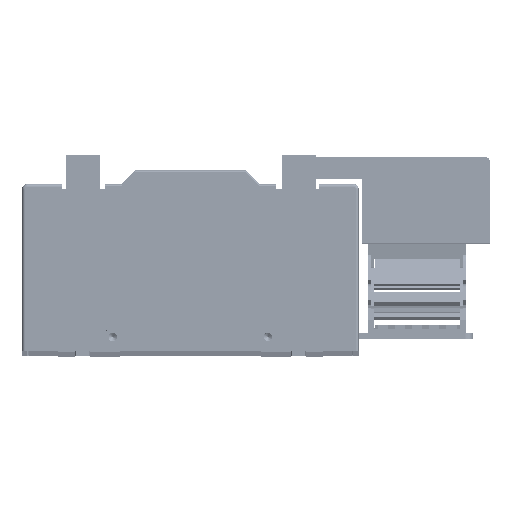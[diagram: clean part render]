
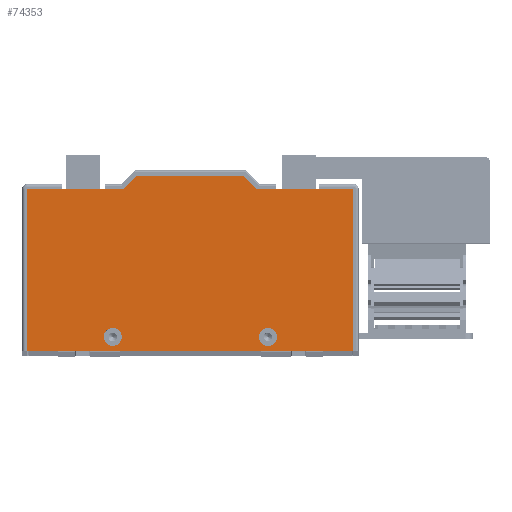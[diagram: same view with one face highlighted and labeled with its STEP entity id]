
A CAD part, top view. The second image highlights one B-rep face of the part: STEP entity #74353.
In plain terms, the highlighted planar face has unit normal (0, 0, 1) as drawn and (0, 0, -1) by its records, which use the part's own axes.
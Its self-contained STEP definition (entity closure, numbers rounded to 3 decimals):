
#4871 = DIRECTION ( 'NONE',  ( 0., 1., 0. ) ) ;
#4872 = VECTOR ( 'NONE', #4871, 1000. ) ;
#4873 = CARTESIAN_POINT ( 'NONE',  ( -175.191, -17.701, 0. ) ) ;
#4875 = LINE ( 'NONE', #4873, #4872 ) ;
#6673 = CARTESIAN_POINT ( 'NONE',  ( -175.191, -9.701, 0. ) ) ;
#8071 = DIRECTION ( 'NONE',  ( -1., 0., 0. ) ) ;
#8073 = VECTOR ( 'NONE', #8071, 1000. ) ;
#8076 = CARTESIAN_POINT ( 'NONE',  ( 14.809, -17.701, 0. ) ) ;
#8077 = LINE ( 'NONE', #8076, #8073 ) ;
#8194 = CARTESIAN_POINT ( 'NONE',  ( -111.191, -17.701, 0. ) ) ;
#8887 = CARTESIAN_POINT ( 'NONE',  ( -40.191, 76.299, 0. ) ) ;
#9046 = CARTESIAN_POINT ( 'NONE',  ( -29.691, 76.299, 0. ) ) ;
#9144 = DIRECTION ( 'NONE',  ( -1., 0., 0. ) ) ;
#9146 = DIRECTION ( 'NONE',  ( 0., 0., -1. ) ) ;
#9148 = AXIS2_PLACEMENT_3D ( 'NONE', #9159, #9146, #9144 ) ;
#9149 = CIRCLE ( 'NONE', #9148, 5.25 ) ;
#9159 = CARTESIAN_POINT ( 'NONE',  ( -34.941, 76.299, 0. ) ) ;
#9423 = VERTEX_POINT ( 'NONE', #108150 ) ;
#11828 = CARTESIAN_POINT ( 'NONE',  ( -130.691, 76.299, 0. ) ) ;
#17347 = DIRECTION ( 'NONE',  ( -1., 0., 0. ) ) ;
#17348 = DIRECTION ( 'NONE',  ( 0., 0., -1. ) ) ;
#17349 = CARTESIAN_POINT ( 'NONE',  ( -125.441, 76.299, 0. ) ) ;
#17350 = AXIS2_PLACEMENT_3D ( 'NONE', #17349, #17348, #17347 ) ;
#17352 = CIRCLE ( 'NONE', #17350, 5.25 ) ;
#34182 = DIRECTION ( 'NONE',  ( 1., 0., 0. ) ) ;
#34183 = VECTOR ( 'NONE', #34182, 1000. ) ;
#34184 = CARTESIAN_POINT ( 'NONE',  ( -175.191, 84.299, 0. ) ) ;
#34185 = LINE ( 'NONE', #34184, #34183 ) ;
#34225 = CARTESIAN_POINT ( 'NONE',  ( -175.191, 84.299, 0. ) ) ;
#34227 = CARTESIAN_POINT ( 'NONE',  ( 14.809, 84.299, 0. ) ) ;
#34911 = CARTESIAN_POINT ( 'NONE',  ( -49.191, -17.701, 0. ) ) ;
#41503 = LINE ( 'NONE', #41574, #41573 ) ;
#41572 = DIRECTION ( 'NONE',  ( 1., 0., 0. ) ) ;
#41573 = VECTOR ( 'NONE', #41572, 1000. ) ;
#41574 = CARTESIAN_POINT ( 'NONE',  ( -119.191, -9.701, 0. ) ) ;
#41718 = CARTESIAN_POINT ( 'NONE',  ( -119.191, -9.701, 0. ) ) ;
#41771 = DIRECTION ( 'NONE',  ( 0.707, 0.707, 0. ) ) ;
#41772 = VECTOR ( 'NONE', #41771, 1000. ) ;
#41773 = CARTESIAN_POINT ( 'NONE',  ( -41.191, -9.701, 0. ) ) ;
#41778 = LINE ( 'NONE', #41773, #41772 ) ;
#41824 = DIRECTION ( 'NONE',  ( 0.707, -0.707, 0. ) ) ;
#41825 = VECTOR ( 'NONE', #41824, 1000. ) ;
#41826 = CARTESIAN_POINT ( 'NONE',  ( -111.191, -17.701, 0. ) ) ;
#41827 = LINE ( 'NONE', #41826, #41825 ) ;
#41889 = CARTESIAN_POINT ( 'NONE',  ( -41.191, -9.701, 0. ) ) ;
#42053 = DIRECTION ( 'NONE',  ( 1., 0., 0. ) ) ;
#42054 = VECTOR ( 'NONE', #42053, 1000. ) ;
#42055 = CARTESIAN_POINT ( 'NONE',  ( 14.809, -9.701, 0. ) ) ;
#42056 = LINE ( 'NONE', #42055, #42054 ) ;
#43990 = DIRECTION ( 'NONE',  ( -1., 0., 0. ) ) ;
#43991 = DIRECTION ( 'NONE',  ( 0., 0., -1. ) ) ;
#43992 = CARTESIAN_POINT ( 'NONE',  ( -34.941, 76.299, 0. ) ) ;
#43993 = AXIS2_PLACEMENT_3D ( 'NONE', #43992, #43991, #43990 ) ;
#43994 = CIRCLE ( 'NONE', #43993, 5.25 ) ;
#45676 = DIRECTION ( 'NONE',  ( 0., 0., -1. ) ) ;
#45677 = CARTESIAN_POINT ( 'NONE',  ( -125.441, 76.299, 0. ) ) ;
#45678 = AXIS2_PLACEMENT_3D ( 'NONE', #45677, #45676, #45741 ) ;
#45679 = CIRCLE ( 'NONE', #45678, 5.25 ) ;
#45741 = DIRECTION ( 'NONE',  ( -1., 0., 0. ) ) ;
#45966 = DIRECTION ( 'NONE',  ( 1., 0., 0. ) ) ;
#45967 = DIRECTION ( 'NONE',  ( 0., 0., 1. ) ) ;
#45968 = CARTESIAN_POINT ( 'NONE',  ( -175.191, 84.299, 0. ) ) ;
#45969 = AXIS2_PLACEMENT_3D ( 'NONE', #45968, #45967, #45966 ) ;
#45972 = PLANE ( 'NONE',  #45969 ) ;
#45973 = FACE_OUTER_BOUND ( 'NONE', #70578, .T. ) ;
#45974 = FACE_BOUND ( 'NONE', #73036, .T. ) ;
#45975 = FACE_BOUND ( 'NONE', #74505, .T. ) ;
#70578 = EDGE_LOOP ( 'NONE', ( #128232, #127660, #125796, #125690, #125522, #125423, #124928, #124988 ) ) ;
#71286 = ORIENTED_EDGE ( 'NONE', *, *, #89266, .F. ) ;
#72454 = EDGE_CURVE ( 'NONE', #88800, #89128, #43994, .T. ) ;
#73036 = EDGE_LOOP ( 'NONE', ( #73390, #71286 ) ) ;
#73390 = ORIENTED_EDGE ( 'NONE', *, *, #72454, .F. ) ;
#73843 = ORIENTED_EDGE ( 'NONE', *, *, #93633, .F. ) ;
#73892 = EDGE_CURVE ( 'NONE', #103095, #9423, #45679, .T. ) ;
#74270 = ORIENTED_EDGE ( 'NONE', *, *, #73892, .F. ) ;
#74353 = ADVANCED_FACE ( 'NONE', ( #45975, #45974, #45973 ), #45972, .F. ) ;
#74505 = EDGE_LOOP ( 'NONE', ( #74270, #73843 ) ) ;
#83686 = EDGE_CURVE ( 'NONE', #104862, #84419, #86965, .T. ) ;
#84419 = VERTEX_POINT ( 'NONE', #88331 ) ;
#86211 = EDGE_CURVE ( 'NONE', #105301, #86763, #8077, .T. ) ;
#86763 = VERTEX_POINT ( 'NONE', #8194 ) ;
#86962 = DIRECTION ( 'NONE',  ( 0., -1., 0. ) ) ;
#86963 = VECTOR ( 'NONE', #86962, 1000. ) ;
#86964 = CARTESIAN_POINT ( 'NONE',  ( 14.809, 84.299, 0. ) ) ;
#86965 = LINE ( 'NONE', #86964, #86963 ) ;
#88331 = CARTESIAN_POINT ( 'NONE',  ( 14.809, -9.701, 0. ) ) ;
#88800 = VERTEX_POINT ( 'NONE', #8887 ) ;
#89128 = VERTEX_POINT ( 'NONE', #9046 ) ;
#89266 = EDGE_CURVE ( 'NONE', #89128, #88800, #9149, .T. ) ;
#93633 = EDGE_CURVE ( 'NONE', #9423, #103095, #17352, .T. ) ;
#99681 = EDGE_CURVE ( 'NONE', #101411, #104865, #4875, .T. ) ;
#101411 = VERTEX_POINT ( 'NONE', #6673 ) ;
#103095 = VERTEX_POINT ( 'NONE', #11828 ) ;
#104853 = EDGE_CURVE ( 'NONE', #104865, #104862, #34185, .T. ) ;
#104862 = VERTEX_POINT ( 'NONE', #34227 ) ;
#104865 = VERTEX_POINT ( 'NONE', #34225 ) ;
#105301 = VERTEX_POINT ( 'NONE', #34911 ) ;
#108150 = CARTESIAN_POINT ( 'NONE',  ( -120.191, 76.299, 0. ) ) ;
#124912 = EDGE_CURVE ( 'NONE', #101411, #125567, #41503, .T. ) ;
#124928 = ORIENTED_EDGE ( 'NONE', *, *, #99681, .T. ) ;
#124988 = ORIENTED_EDGE ( 'NONE', *, *, #104853, .T. ) ;
#125423 = ORIENTED_EDGE ( 'NONE', *, *, #124912, .F. ) ;
#125522 = ORIENTED_EDGE ( 'NONE', *, *, #125833, .F. ) ;
#125567 = VERTEX_POINT ( 'NONE', #41718 ) ;
#125627 = EDGE_CURVE ( 'NONE', #105301, #126214, #41778, .T. ) ;
#125690 = ORIENTED_EDGE ( 'NONE', *, *, #86211, .T. ) ;
#125796 = ORIENTED_EDGE ( 'NONE', *, *, #125627, .F. ) ;
#125833 = EDGE_CURVE ( 'NONE', #125567, #86763, #41827, .T. ) ;
#126214 = VERTEX_POINT ( 'NONE', #41889 ) ;
#126878 = EDGE_CURVE ( 'NONE', #126214, #84419, #42056, .T. ) ;
#127660 = ORIENTED_EDGE ( 'NONE', *, *, #126878, .F. ) ;
#128232 = ORIENTED_EDGE ( 'NONE', *, *, #83686, .T. ) ;
